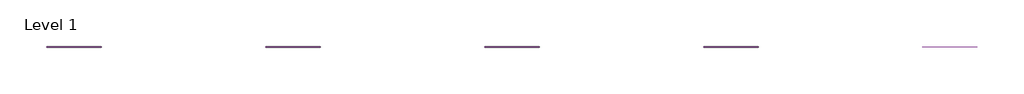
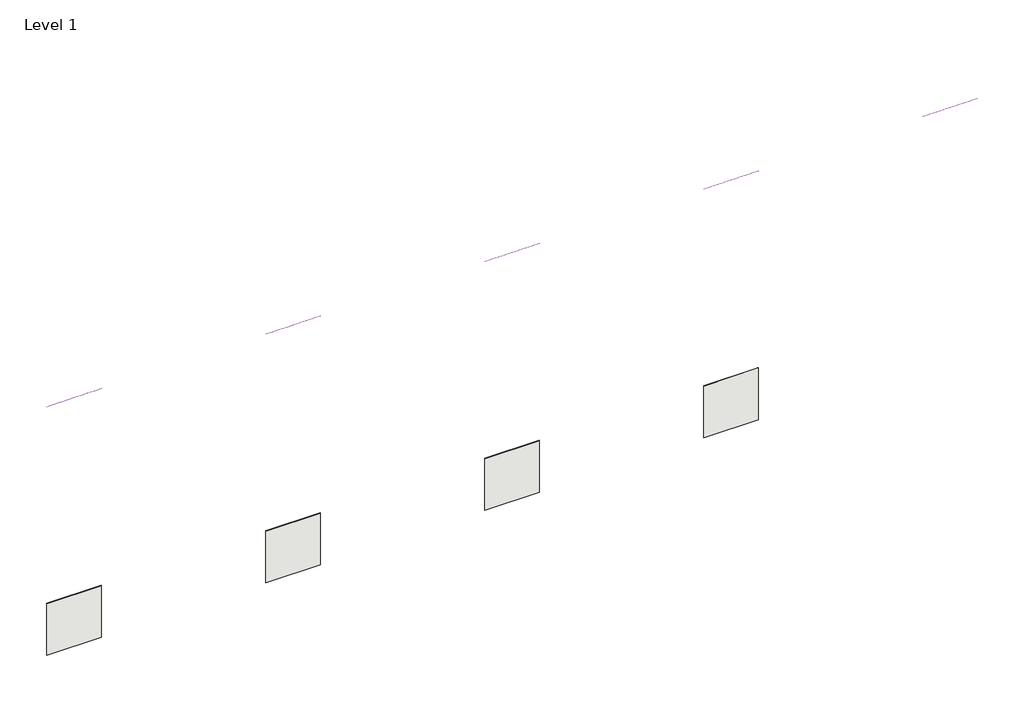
# One storey: 9 coverings.
"""IFC4 building model written with IfcOpenShell, lengths in millimetres."""

from ifc_helpers import new_model, si_unit, frame, origin, origin_with_axes, place, context, project, spatial, polyline, outline, extrude, element, save

model = new_model("IFC4")

# Units and contexts
model_context = context("Model", 3, world=origin())
ifc_project = project(units=[si_unit("LENGTHUNIT", "METRE", prefix="MILLI")], contexts=[model_context])

# Site, building, storey
site = spatial("IfcSite", under=ifc_project)
building = spatial("IfcBuilding", under=site)
storey = spatial("IfcBuildingStorey", under=building, Name="Level 1", Elevation=0.0)

# Coverings
placement = place(None, origin())
element("IfcCovering", 1, ObjectType="REVIGRES-RETRO-BASE-20x40-BRILHO-MUSTARD", at=placement, inside=storey, context=model_context, shape_type="SweptSolid", body=[
    extrude(outline(polyline([(3829.5116061, 6734.510858), (2834.0116061, 6734.510858), (2834.0116061, 6743.510858), (3829.5116061, 6743.510858), (3829.5116061, 6734.510858)])), origin_with_axes(), (0.0, 0.0, 1.0), 1000.0),
])
element("IfcCovering", 2, ObjectType="REVIGRES-RETRO-BASE-20x40-BRILHO-OLIVE", at=placement, inside=storey, context=model_context, shape_type="SweptSolid", body=[
    extrude(outline(polyline([(7829.5116061, 6734.510858), (6834.0116061, 6734.510858), (6834.0116061, 6743.510858), (7829.5116061, 6743.510858), (7829.5116061, 6734.510858)])), origin_with_axes(), (0.0, 0.0, 1.0), 1000.0),
])
element("IfcCovering", 3, ObjectType="REVIGRES-RETRO-BASE-20x40-BRILHO-ROSE", at=placement, inside=storey, context=model_context, shape_type="SweptSolid", body=[
    extrude(outline(polyline([(11829.5116061, 6734.510858), (10834.0116061, 6734.510858), (10834.0116061, 6743.510858), (11829.5116061, 6743.510858), (11829.5116061, 6734.510858)])), origin_with_axes(), (0.0, 0.0, 1.0), 1000.0),
])
element("IfcCovering", 4, ObjectType="REVIGRES-RETRO-BASE-20x40-BRILHO-WHITE", at=placement, inside=storey, context=model_context, shape_type="SweptSolid", body=[
    extrude(outline(polyline([(15829.5116061, 6734.510858), (14834.0116061, 6734.510858), (14834.0116061, 6743.510858), (15829.5116061, 6743.510858), (15829.5116061, 6734.510858)])), origin_with_axes(), (0.0, 0.0, 1.0), 1000.0),
])
element("IfcCovering", 5, ObjectType="REVIGRES-RETRO-BASE-20x40-BRILHO-ALLOY", at=placement, inside=storey, context=model_context, shape_type="SweptSolid", body=[
    extrude(outline(polyline([(3829.5116061, 6734.510858), (2834.0116061, 6734.510858), (2834.0116061, 6743.510858), (3829.5116061, 6743.510858), (3829.5116061, 6734.510858)])), frame((0.0, 0.0, 4800.0), z_axis=(0.0, 0.0, 1.0), x_axis=(1.0, 0.0, 0.0)), (0.0, 0.0, 1.0), 1000.0),
])
element("IfcCovering", 6, ObjectType="REVIGRES-RETRO-BASE-20x40-BRILHO-AQUA", at=placement, inside=storey, context=model_context, shape_type="SweptSolid", body=[
    extrude(outline(polyline([(7829.5116061, 6734.510858), (6834.0116061, 6734.510858), (6834.0116061, 6743.510858), (7829.5116061, 6743.510858), (7829.5116061, 6734.510858)])), frame((0.0, 0.0, 4800.0), z_axis=(0.0, 0.0, 1.0), x_axis=(1.0, 0.0, 0.0)), (0.0, 0.0, 1.0), 1000.0),
])
element("IfcCovering", 7, ObjectType="REVIGRES-RETRO-BASE-20x40-BRILHO-BEGE", at=placement, inside=storey, context=model_context, shape_type="SweptSolid", body=[
    extrude(outline(polyline([(11829.5116061, 6734.510858), (10834.0116061, 6734.510858), (10834.0116061, 6743.510858), (11829.5116061, 6743.510858), (11829.5116061, 6734.510858)])), frame((0.0, 0.0, 4800.0), z_axis=(0.0, 0.0, 1.0), x_axis=(1.0, 0.0, 0.0)), (0.0, 0.0, 1.0), 1000.0),
])
element("IfcCovering", 8, ObjectType="REVIGRES-RETRO-BASE-20x40-BRILHO-BLUE", at=placement, inside=storey, context=model_context, shape_type="SweptSolid", body=[
    extrude(outline(polyline([(15829.5116061, 6734.510858), (14834.0116061, 6734.510858), (14834.0116061, 6743.510858), (15829.5116061, 6743.510858), (15829.5116061, 6734.510858)])), frame((0.0, 0.0, 4800.0), z_axis=(0.0, 0.0, 1.0), x_axis=(1.0, 0.0, 0.0)), (0.0, 0.0, 1.0), 1000.0),
])
element("IfcCovering", 9, ObjectType="REVIGRES-RETRO-BASE-20x40-BRILHO-CARMIM", at=placement, inside=storey, context=model_context, shape_type="SweptSolid", body=[
    extrude(outline(polyline([(19829.5116061, 6734.510858), (18834.0116061, 6734.510858), (18834.0116061, 6743.510858), (19829.5116061, 6743.510858), (19829.5116061, 6734.510858)])), frame((0.0, 0.0, 4800.0), z_axis=(0.0, 0.0, 1.0), x_axis=(1.0, 0.0, 0.0)), (0.0, 0.0, 1.0), 1000.0),
])

save(model, "model.ifc")
